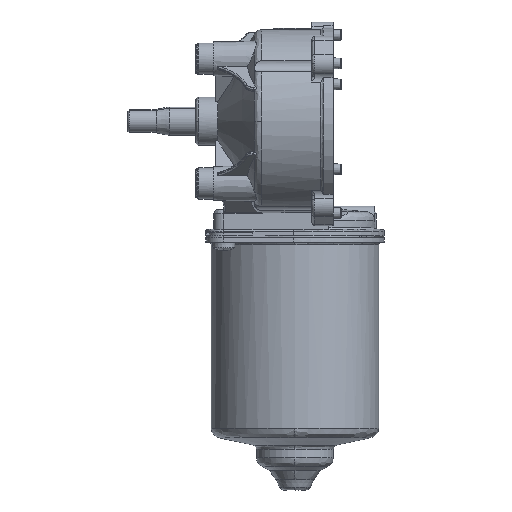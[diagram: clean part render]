
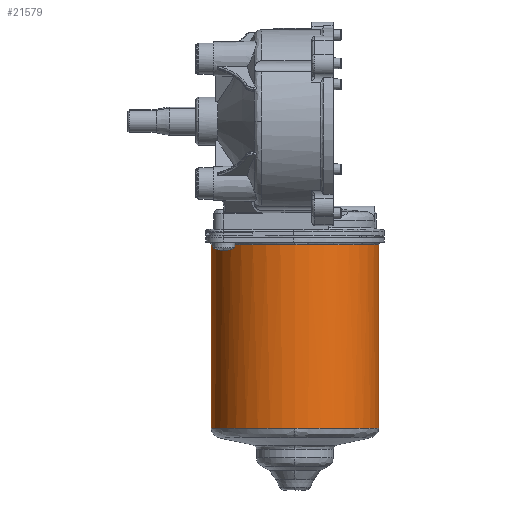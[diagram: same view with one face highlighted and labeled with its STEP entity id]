
A CAD part, front view. The second image highlights one B-rep face of the part: STEP entity #21579.
In plain terms, the highlighted cylindrical face has radius 29.599 mm (diameter 59.199 mm), a partial arc.
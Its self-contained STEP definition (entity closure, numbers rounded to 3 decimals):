
#1488 = EDGE_CURVE ( 'NONE', #3208, #24751, #26477, .T. ) ;
#3208 = VERTEX_POINT ( 'NONE', #30255 ) ;
#8159 = CARTESIAN_POINT ( 'NONE',  ( 24.999, 31.001, -43.7 ) ) ;
#8199 = CYLINDRICAL_SURFACE ( 'NONE', #8222, 29.599 ) ;
#8201 = FACE_OUTER_BOUND ( 'NONE', #21580, .T. ) ;
#8202 = DIRECTION ( 'NONE',  ( 0., -1., 0. ) ) ;
#8203 = DIRECTION ( 'NONE',  ( 0., 0., -1. ) ) ;
#8204 = AXIS2_PLACEMENT_3D ( 'NONE', #8159, #8203, #8202 ) ;
#8205 = CIRCLE ( 'NONE', #8204, 29.599 ) ;
#8219 = DIRECTION ( 'NONE',  ( 1., 0., 0. ) ) ;
#8220 = DIRECTION ( 'NONE',  ( 0., 0., 1. ) ) ;
#8221 = CARTESIAN_POINT ( 'NONE',  ( 24.999, 31.001, -108.318 ) ) ;
#8222 = AXIS2_PLACEMENT_3D ( 'NONE', #8221, #8220, #8219 ) ;
#8511 = DIRECTION ( 'NONE',  ( 0., 0., 1. ) ) ;
#8512 = VECTOR ( 'NONE', #8511, 1000. ) ;
#8513 = CARTESIAN_POINT ( 'NONE',  ( 54.599, 31.001, -108.318 ) ) ;
#8514 = LINE ( 'NONE', #8513, #8512 ) ;
#8529 = CARTESIAN_POINT ( 'NONE',  ( 54.599, 31.001, -43.7 ) ) ;
#14541 = CIRCLE ( 'NONE', #14573, 29.599 ) ;
#14542 = CARTESIAN_POINT ( 'NONE',  ( -4.6, 31.001, -43.7 ) ) ;
#14569 = CARTESIAN_POINT ( 'NONE',  ( 24.999, 1.401, -43.7 ) ) ;
#14570 = DIRECTION ( 'NONE',  ( 0., -1., 0. ) ) ;
#14571 = DIRECTION ( 'NONE',  ( 0., 0., -1. ) ) ;
#14572 = CARTESIAN_POINT ( 'NONE',  ( 24.999, 31.001, -43.7 ) ) ;
#14573 = AXIS2_PLACEMENT_3D ( 'NONE', #14572, #14571, #14570 ) ;
#15291 = B_SPLINE_CURVE_WITH_KNOTS ( 'NONE', 3,
 ( #15292, #15316, #15315, #15345, #15344, #15343, #15342, #15341, #15340, #15339, #15338, #15337, #15336, #15335, #15334, #15333, #15332, #15331 ),
 .UNSPECIFIED., .F., .F.,
 ( 4, 2, 2, 2, 2, 2, 2, 2, 4 ),
 ( 0., 0.062, 0.125, 0.187, 0.25, 0.313, 0.375, 0.437, 0.5 ),
 .UNSPECIFIED. ) ;
#15292 = CARTESIAN_POINT ( 'NONE',  ( 24.999, 1.401, -108.318 ) ) ;
#15315 = CARTESIAN_POINT ( 'NONE',  ( 28.874, 1.592, -108.318 ) ) ;
#15316 = CARTESIAN_POINT ( 'NONE',  ( 26.936, 1.401, -108.318 ) ) ;
#15317 = CARTESIAN_POINT ( 'NONE',  ( 24.999, 1.401, -108.318 ) ) ;
#15319 = CARTESIAN_POINT ( 'NONE',  ( 54.599, 31.001, -108.318 ) ) ;
#15331 = CARTESIAN_POINT ( 'NONE',  ( 54.599, 31.001, -108.318 ) ) ;
#15332 = CARTESIAN_POINT ( 'NONE',  ( 54.599, 29.063, -108.318 ) ) ;
#15333 = CARTESIAN_POINT ( 'NONE',  ( 54.408, 27.126, -108.318 ) ) ;
#15334 = CARTESIAN_POINT ( 'NONE',  ( 53.652, 23.326, -108.318 ) ) ;
#15335 = CARTESIAN_POINT ( 'NONE',  ( 53.087, 21.463, -108.318 ) ) ;
#15336 = CARTESIAN_POINT ( 'NONE',  ( 51.604, 17.884, -108.318 ) ) ;
#15337 = CARTESIAN_POINT ( 'NONE',  ( 50.687, 16.167, -108.318 ) ) ;
#15338 = CARTESIAN_POINT ( 'NONE',  ( 48.534, 12.945, -108.318 ) ) ;
#15339 = CARTESIAN_POINT ( 'NONE',  ( 47.299, 11.44, -108.318 ) ) ;
#15340 = CARTESIAN_POINT ( 'NONE',  ( 44.559, 8.701, -108.318 ) ) ;
#15341 = CARTESIAN_POINT ( 'NONE',  ( 43.055, 7.466, -108.318 ) ) ;
#15342 = CARTESIAN_POINT ( 'NONE',  ( 39.833, 5.313, -108.318 ) ) ;
#15343 = CARTESIAN_POINT ( 'NONE',  ( 38.116, 4.396, -108.318 ) ) ;
#15344 = CARTESIAN_POINT ( 'NONE',  ( 34.537, 2.913, -108.318 ) ) ;
#15345 = CARTESIAN_POINT ( 'NONE',  ( 32.674, 2.348, -108.318 ) ) ;
#19856 = DIRECTION ( 'NONE',  ( 0., 0., 1. ) ) ;
#19857 = VECTOR ( 'NONE', #19856, 1000. ) ;
#19858 = CARTESIAN_POINT ( 'NONE',  ( -4.6, 31.001, -108.318 ) ) ;
#19859 = LINE ( 'NONE', #19858, #19857 ) ;
#21575 = EDGE_CURVE ( 'NONE', #21951, #24581, #8205, .T. ) ;
#21576 = ORIENTED_EDGE ( 'NONE', *, *, #24580, .T. ) ;
#21579 = ADVANCED_FACE ( 'NONE', ( #8201 ), #8199, .T. ) ;
#21580 = EDGE_LOOP ( 'NONE', ( #21581, #21597, #21598, #21651, #21652, #21576 ) ) ;
#21581 = ORIENTED_EDGE ( 'NONE', *, *, #27543, .F. ) ;
#21597 = ORIENTED_EDGE ( 'NONE', *, *, #1488, .T. ) ;
#21598 = ORIENTED_EDGE ( 'NONE', *, *, #24750, .T. ) ;
#21651 = ORIENTED_EDGE ( 'NONE', *, *, #21965, .T. ) ;
#21652 = ORIENTED_EDGE ( 'NONE', *, *, #21575, .T. ) ;
#21951 = VERTEX_POINT ( 'NONE', #8529 ) ;
#21965 = EDGE_CURVE ( 'NONE', #24748, #21951, #8514, .T. ) ;
#24578 = VERTEX_POINT ( 'NONE', #14542 ) ;
#24580 = EDGE_CURVE ( 'NONE', #24581, #24578, #14541, .T. ) ;
#24581 = VERTEX_POINT ( 'NONE', #14569 ) ;
#24748 = VERTEX_POINT ( 'NONE', #15319 ) ;
#24750 = EDGE_CURVE ( 'NONE', #24751, #24748, #15291, .T. ) ;
#24751 = VERTEX_POINT ( 'NONE', #15317 ) ;
#26469 = CARTESIAN_POINT ( 'NONE',  ( -4.41, 27.126, -108.318 ) ) ;
#26470 = CARTESIAN_POINT ( 'NONE',  ( -4.6, 29.063, -108.318 ) ) ;
#26476 = CARTESIAN_POINT ( 'NONE',  ( -4.6, 31.001, -108.318 ) ) ;
#26477 = B_SPLINE_CURVE_WITH_KNOTS ( 'NONE', 3,
 ( #26476, #26470, #26469, #26537, #26536, #26535, #26534, #26533, #26532, #26531, #26530, #26529, #26528, #26527, #26526, #26525, #26524, #26523 ),
 .UNSPECIFIED., .F., .F.,
 ( 4, 2, 2, 2, 2, 2, 2, 2, 4 ),
 ( 0.5, 0.563, 0.625, 0.688, 0.75, 0.813, 0.875, 0.938, 1. ),
 .UNSPECIFIED. ) ;
#26523 = CARTESIAN_POINT ( 'NONE',  ( 24.999, 1.401, -108.318 ) ) ;
#26524 = CARTESIAN_POINT ( 'NONE',  ( 23.062, 1.401, -108.318 ) ) ;
#26525 = CARTESIAN_POINT ( 'NONE',  ( 21.125, 1.592, -108.318 ) ) ;
#26526 = CARTESIAN_POINT ( 'NONE',  ( 17.325, 2.348, -108.318 ) ) ;
#26527 = CARTESIAN_POINT ( 'NONE',  ( 15.462, 2.913, -108.318 ) ) ;
#26528 = CARTESIAN_POINT ( 'NONE',  ( 11.882, 4.396, -108.318 ) ) ;
#26529 = CARTESIAN_POINT ( 'NONE',  ( 10.165, 5.313, -108.318 ) ) ;
#26530 = CARTESIAN_POINT ( 'NONE',  ( 6.944, 7.466, -108.318 ) ) ;
#26531 = CARTESIAN_POINT ( 'NONE',  ( 5.439, 8.701, -108.318 ) ) ;
#26532 = CARTESIAN_POINT ( 'NONE',  ( 2.699, 11.44, -108.318 ) ) ;
#26533 = CARTESIAN_POINT ( 'NONE',  ( 1.464, 12.945, -108.318 ) ) ;
#26534 = CARTESIAN_POINT ( 'NONE',  ( -0.688, 16.167, -108.318 ) ) ;
#26535 = CARTESIAN_POINT ( 'NONE',  ( -1.606, 17.884, -108.318 ) ) ;
#26536 = CARTESIAN_POINT ( 'NONE',  ( -3.089, 21.463, -108.318 ) ) ;
#26537 = CARTESIAN_POINT ( 'NONE',  ( -3.654, 23.326, -108.318 ) ) ;
#27543 = EDGE_CURVE ( 'NONE', #3208, #24578, #19859, .T. ) ;
#30255 = CARTESIAN_POINT ( 'NONE',  ( -4.6, 31.001, -108.318 ) ) ;
